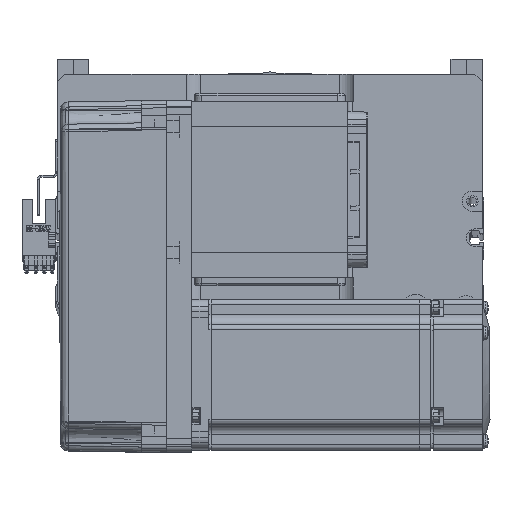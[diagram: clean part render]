
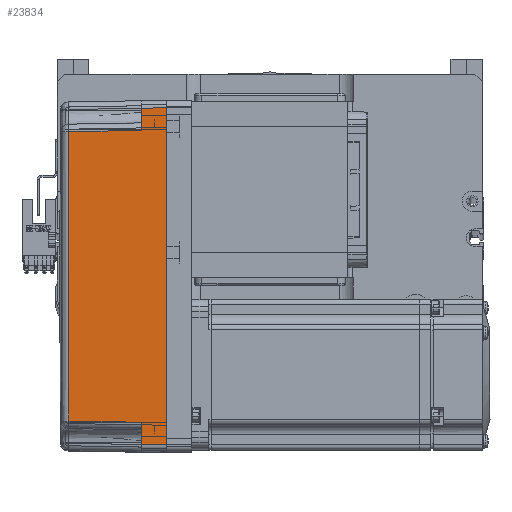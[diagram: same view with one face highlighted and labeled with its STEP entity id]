
A CAD part, top view. The second image highlights one B-rep face of the part: STEP entity #23834.
In plain terms, the highlighted planar face has unit normal (-0.018, 0, 1) as drawn and (0, -1, 0.017) by its records, which use the part's own axes.
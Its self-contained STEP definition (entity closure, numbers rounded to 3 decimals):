
#1156 = EDGE_CURVE ( 'NONE', #39255, #62259, #28715, .T. ) ;
#2841 = B_SPLINE_CURVE_WITH_KNOTS ( 'NONE', 3,
 ( #59573, #39026, #4382, #44718 ),
 .UNSPECIFIED., .F., .F.,
 ( 4, 4 ),
 ( 0., 1. ),
 .UNSPECIFIED. ) ;
#3031 = ORIENTED_EDGE ( 'NONE', *, *, #1156, .F. ) ;
#3105 = VERTEX_POINT ( 'NONE', #51452 ) ;
#4162 = DIRECTION ( 'NONE',  ( 0., -1., 0.017 ) ) ;
#4382 = CARTESIAN_POINT ( 'NONE',  ( -19.165, -35.316, 39.181 ) ) ;
#4824 = VERTEX_POINT ( 'NONE', #59224 ) ;
#5238 = VECTOR ( 'NONE', #56006, 1000. ) ;
#6072 = LINE ( 'NONE', #24158, #17947 ) ;
#6362 = FACE_OUTER_BOUND ( 'NONE', #18820, .T. ) ;
#6885 = AXIS2_PLACEMENT_3D ( 'NONE', #19202, #4162, #13920 ) ;
#7900 = CARTESIAN_POINT ( 'NONE',  ( 0., -36., 0. ) ) ;
#9115 = DIRECTION ( 'NONE',  ( -0.017, 0.017, 1. ) ) ;
#10566 = CARTESIAN_POINT ( 'NONE',  ( 58., -35.825, 10. ) ) ;
#12619 = CARTESIAN_POINT ( 'NONE',  ( -57.495, -35.32, 38.985 ) ) ;
#13920 = DIRECTION ( 'NONE',  ( 0., -0.017, -1. ) ) ;
#14796 = EDGE_CURVE ( 'NONE', #28844, #3105, #64941, .T. ) ;
#17038 = DIRECTION ( 'NONE',  ( -0.017, -0.017, -1. ) ) ;
#17257 = ORIENTED_EDGE ( 'NONE', *, *, #62006, .T. ) ;
#17947 = VECTOR ( 'NONE', #9115, 1000. ) ;
#18427 = CARTESIAN_POINT ( 'NONE',  ( 67., -36., 0. ) ) ;
#18529 = ORIENTED_EDGE ( 'NONE', *, *, #55039, .T. ) ;
#18699 = LINE ( 'NONE', #10566, #5238 ) ;
#18820 = EDGE_LOOP ( 'NONE', ( #18529, #47769, #37689, #56569, #44086, #17257, #56686, #3031 ) ) ;
#19202 = CARTESIAN_POINT ( 'NONE',  ( 70., -36., 0. ) ) ;
#20736 = VECTOR ( 'NONE', #29240, 1000. ) ;
#22789 = VERTEX_POINT ( 'NONE', #30345 ) ;
#23834 = ADVANCED_FACE ( 'NONE', ( #6362 ), #28928, .T. ) ;
#24158 = CARTESIAN_POINT ( 'NONE',  ( 67., -36., 0. ) ) ;
#24321 = LINE ( 'NONE', #54552, #64591 ) ;
#26354 = VECTOR ( 'NONE', #28449, 1000. ) ;
#26564 = LINE ( 'NONE', #54868, #46995 ) ;
#28449 = DIRECTION ( 'NONE',  ( -1., 0., 0. ) ) ;
#28715 = LINE ( 'NONE', #7900, #26354 ) ;
#28844 = VERTEX_POINT ( 'NONE', #49054 ) ;
#28928 = PLANE ( 'NONE',  #6885 ) ;
#29240 = DIRECTION ( 'NONE',  ( 0.017, 0.017, 1. ) ) ;
#30345 = CARTESIAN_POINT ( 'NONE',  ( 58., -35.825, 10. ) ) ;
#31749 = EDGE_CURVE ( 'NONE', #22789, #55407, #18699, .T. ) ;
#37689 = ORIENTED_EDGE ( 'NONE', *, *, #31749, .T. ) ;
#39026 = CARTESIAN_POINT ( 'NONE',  ( 19.165, -35.316, 39.181 ) ) ;
#39060 = VERTEX_POINT ( 'NONE', #47935 ) ;
#39192 = EDGE_CURVE ( 'NONE', #62259, #4824, #47483, .T. ) ;
#39255 = VERTEX_POINT ( 'NONE', #18427 ) ;
#39829 = DIRECTION ( 'NONE',  ( -1., 0., 0. ) ) ;
#43054 = EDGE_CURVE ( 'NONE', #39060, #22789, #26564, .T. ) ;
#44086 = ORIENTED_EDGE ( 'NONE', *, *, #14796, .T. ) ;
#44718 = CARTESIAN_POINT ( 'NONE',  ( -57.495, -35.32, 38.985 ) ) ;
#46995 = VECTOR ( 'NONE', #39829, 1000. ) ;
#47483 = LINE ( 'NONE', #59465, #20736 ) ;
#47576 = EDGE_CURVE ( 'NONE', #55407, #28844, #2841, .T. ) ;
#47769 = ORIENTED_EDGE ( 'NONE', *, *, #43054, .T. ) ;
#47935 = CARTESIAN_POINT ( 'NONE',  ( 66.826, -35.825, 10. ) ) ;
#48509 = CARTESIAN_POINT ( 'NONE',  ( 57.495, -35.32, 38.985 ) ) ;
#49054 = CARTESIAN_POINT ( 'NONE',  ( -57.495, -35.32, 38.985 ) ) ;
#49830 = DIRECTION ( 'NONE',  ( -1., 0., 0. ) ) ;
#51393 = CARTESIAN_POINT ( 'NONE',  ( -67., -36., 0. ) ) ;
#51452 = CARTESIAN_POINT ( 'NONE',  ( -58., -35.825, 10. ) ) ;
#51455 = VECTOR ( 'NONE', #17038, 1000. ) ;
#54552 = CARTESIAN_POINT ( 'NONE',  ( 70., -35.825, 10. ) ) ;
#54868 = CARTESIAN_POINT ( 'NONE',  ( 70., -35.825, 10. ) ) ;
#55039 = EDGE_CURVE ( 'NONE', #39255, #39060, #6072, .T. ) ;
#55407 = VERTEX_POINT ( 'NONE', #48509 ) ;
#56006 = DIRECTION ( 'NONE',  ( -0.017, 0.017, 1. ) ) ;
#56569 = ORIENTED_EDGE ( 'NONE', *, *, #47576, .T. ) ;
#56686 = ORIENTED_EDGE ( 'NONE', *, *, #39192, .F. ) ;
#59224 = CARTESIAN_POINT ( 'NONE',  ( -66.826, -35.825, 10. ) ) ;
#59465 = CARTESIAN_POINT ( 'NONE',  ( -66.959, -35.958, 2.39 ) ) ;
#59573 = CARTESIAN_POINT ( 'NONE',  ( 57.495, -35.32, 38.985 ) ) ;
#62006 = EDGE_CURVE ( 'NONE', #3105, #4824, #24321, .T. ) ;
#62259 = VERTEX_POINT ( 'NONE', #51393 ) ;
#64591 = VECTOR ( 'NONE', #49830, 1000. ) ;
#64941 = LINE ( 'NONE', #12619, #51455 ) ;
